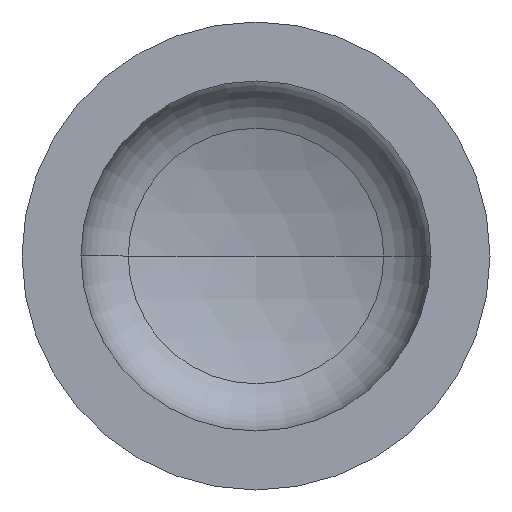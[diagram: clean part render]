
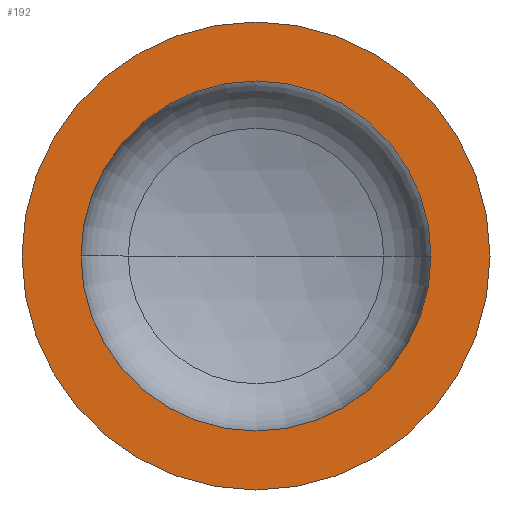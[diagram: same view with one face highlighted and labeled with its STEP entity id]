
A CAD part, front view. The second image highlights one B-rep face of the part: STEP entity #192.
In plain terms, the highlighted planar face has unit normal (0, -1, 0).
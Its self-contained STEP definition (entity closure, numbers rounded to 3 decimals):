
#3 = VERTEX_POINT ( 'NONE', #256 ) ;
#6 = EDGE_LOOP ( 'NONE', ( #23, #44 ) ) ;
#23 = ORIENTED_EDGE ( 'NONE', *, *, #298, .T. ) ;
#32 = DIRECTION ( 'NONE',  ( 1., 0., 0. ) ) ;
#39 = DIRECTION ( 'NONE',  ( 0., -1., 0. ) ) ;
#41 = AXIS2_PLACEMENT_3D ( 'NONE', #176, #95, #182 ) ;
#44 = ORIENTED_EDGE ( 'NONE', *, *, #148, .T. ) ;
#49 = CIRCLE ( 'NONE', #109, 190. ) ;
#57 = VERTEX_POINT ( 'NONE', #230 ) ;
#62 = AXIS2_PLACEMENT_3D ( 'NONE', #181, #39, #32 ) ;
#64 = EDGE_LOOP ( 'NONE', ( #87, #137 ) ) ;
#65 = VERTEX_POINT ( 'NONE', #245 ) ;
#66 = VERTEX_POINT ( 'NONE', #229 ) ;
#84 = AXIS2_PLACEMENT_3D ( 'NONE', #215, #164, #293 ) ;
#87 = ORIENTED_EDGE ( 'NONE', *, *, #149, .F. ) ;
#95 = DIRECTION ( 'NONE',  ( 0., -1., 0. ) ) ;
#109 = AXIS2_PLACEMENT_3D ( 'NONE', #203, #290, #289 ) ;
#112 = AXIS2_PLACEMENT_3D ( 'NONE', #286, #284, #282 ) ;
#137 = ORIENTED_EDGE ( 'NONE', *, *, #345, .F. ) ;
#148 = EDGE_CURVE ( 'NONE', #57, #3, #178, .T. ) ;
#149 = EDGE_CURVE ( 'NONE', #65, #66, #49, .T. ) ;
#164 = DIRECTION ( 'NONE',  ( 0., 1., 0. ) ) ;
#176 = CARTESIAN_POINT ( 'NONE',  ( 0., 0., 0. ) ) ;
#178 = CIRCLE ( 'NONE', #112, 254. ) ;
#181 = CARTESIAN_POINT ( 'NONE',  ( 0., 0., 0. ) ) ;
#182 = DIRECTION ( 'NONE',  ( 1., 0., 0. ) ) ;
#192 = ADVANCED_FACE ( 'NONE', ( #288, #296 ), #352, .F. ) ;
#203 = CARTESIAN_POINT ( 'NONE',  ( 0., 0., 0. ) ) ;
#215 = CARTESIAN_POINT ( 'NONE',  ( -254., 0., 0. ) ) ;
#229 = CARTESIAN_POINT ( 'NONE',  ( -190., 0., 0. ) ) ;
#230 = CARTESIAN_POINT ( 'NONE',  ( -254., 0., 0. ) ) ;
#245 = CARTESIAN_POINT ( 'NONE',  ( 190., 0., 0. ) ) ;
#256 = CARTESIAN_POINT ( 'NONE',  ( 254., 0., 0. ) ) ;
#282 = DIRECTION ( 'NONE',  ( 1., 0., 0. ) ) ;
#284 = DIRECTION ( 'NONE',  ( 0., -1., 0. ) ) ;
#286 = CARTESIAN_POINT ( 'NONE',  ( 0., 0., 0. ) ) ;
#288 = FACE_BOUND ( 'NONE', #64, .T. ) ;
#289 = DIRECTION ( 'NONE',  ( 1., 0., 0. ) ) ;
#290 = DIRECTION ( 'NONE',  ( 0., -1., 0. ) ) ;
#293 = DIRECTION ( 'NONE',  ( -1., 0., 0. ) ) ;
#296 = FACE_OUTER_BOUND ( 'NONE', #6, .T. ) ;
#298 = EDGE_CURVE ( 'NONE', #3, #57, #342, .T. ) ;
#342 = CIRCLE ( 'NONE', #62, 254. ) ;
#345 = EDGE_CURVE ( 'NONE', #66, #65, #387, .T. ) ;
#352 = PLANE ( 'NONE',  #84 ) ;
#387 = CIRCLE ( 'NONE', #41, 190. ) ;
